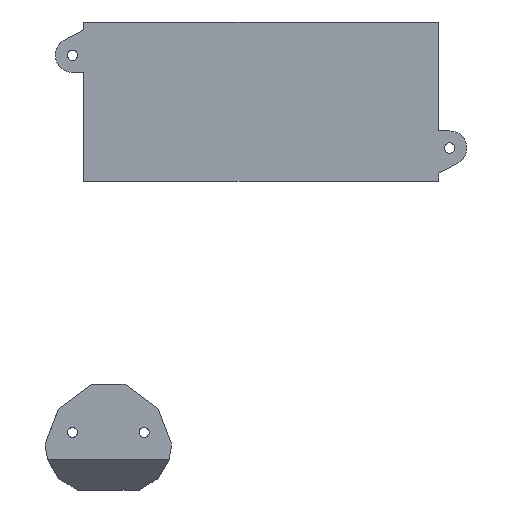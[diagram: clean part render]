
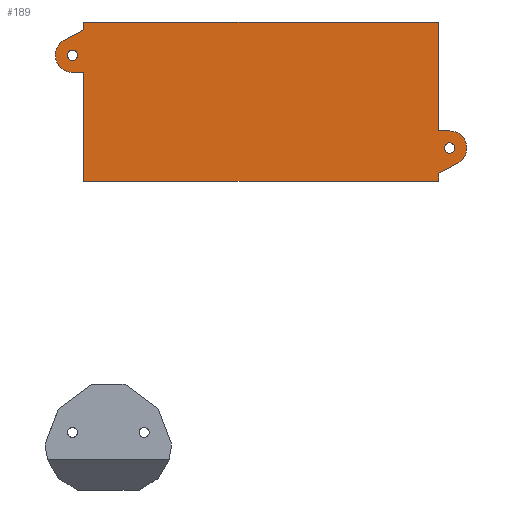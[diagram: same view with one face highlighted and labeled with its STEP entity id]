
A CAD part, top view. The second image highlights one B-rep face of the part: STEP entity #189.
In plain terms, the highlighted planar face has unit normal (0, 0, 1).
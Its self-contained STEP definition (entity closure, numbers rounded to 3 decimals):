
#189 = ADVANCED_FACE( '', ( #361, #362, #363 ), #364, .T. );
#361 = FACE_OUTER_BOUND( '', #516, .T. );
#362 = FACE_BOUND( '', #517, .T. );
#363 = FACE_BOUND( '', #518, .T. );
#364 = PLANE( '', #519 );
#516 = EDGE_LOOP( '', ( #887, #888, #889, #890, #891, #892, #893, #894, #895, #896, #897, #898 ) );
#517 = EDGE_LOOP( '', ( #899 ) );
#518 = EDGE_LOOP( '', ( #900 ) );
#519 = AXIS2_PLACEMENT_3D( '', #901, #902, #903 );
#887 = ORIENTED_EDGE( '', *, *, #1056, .T. );
#888 = ORIENTED_EDGE( '', *, *, #1046, .T. );
#889 = ORIENTED_EDGE( '', *, *, #980, .T. );
#890 = ORIENTED_EDGE( '', *, *, #1064, .T. );
#891 = ORIENTED_EDGE( '', *, *, #1013, .T. );
#892 = ORIENTED_EDGE( '', *, *, #1049, .T. );
#893 = ORIENTED_EDGE( '', *, *, #1008, .T. );
#894 = ORIENTED_EDGE( '', *, *, #1069, .T. );
#895 = ORIENTED_EDGE( '', *, *, #1066, .T. );
#896 = ORIENTED_EDGE( '', *, *, #933, .T. );
#897 = ORIENTED_EDGE( '', *, *, #928, .T. );
#898 = ORIENTED_EDGE( '', *, *, #1070, .T. );
#899 = ORIENTED_EDGE( '', *, *, #1060, .F. );
#900 = ORIENTED_EDGE( '', *, *, #1078, .F. );
#901 = CARTESIAN_POINT( '', ( 0., 0., 0. ) );
#902 = DIRECTION( '', ( 0., 0., 1. ) );
#903 = DIRECTION( '', ( 1., 0., 0. ) );
#928 = EDGE_CURVE( '', #1084, #1085, #1086, .T. );
#933 = EDGE_CURVE( '', #1093, #1084, #1094, .T. );
#980 = EDGE_CURVE( '', #1173, #1174, #1175, .T. );
#1008 = EDGE_CURVE( '', #1216, #1217, #1218, .T. );
#1013 = EDGE_CURVE( '', #1225, #1226, #1227, .T. );
#1046 = EDGE_CURVE( '', #1270, #1173, #1271, .T. );
#1049 = EDGE_CURVE( '', #1226, #1216, #1275, .T. );
#1056 = EDGE_CURVE( '', #1284, #1270, #1285, .T. );
#1060 = EDGE_CURVE( '', #1290, #1290, #1291, .T. );
#1064 = EDGE_CURVE( '', #1174, #1225, #1295, .T. );
#1066 = EDGE_CURVE( '', #1297, #1093, #1298, .T. );
#1069 = EDGE_CURVE( '', #1217, #1297, #1301, .T. );
#1070 = EDGE_CURVE( '', #1085, #1284, #1302, .T. );
#1078 = EDGE_CURVE( '', #1311, #1311, #1312, .T. );
#1084 = VERTEX_POINT( '', #1318 );
#1085 = VERTEX_POINT( '', #1319 );
#1086 = LINE( '', #1320, #1321 );
#1093 = VERTEX_POINT( '', #1331 );
#1094 = CIRCLE( '', #1332, 9.11 );
#1173 = VERTEX_POINT( '', #1444 );
#1174 = VERTEX_POINT( '', #1445 );
#1175 = LINE( '', #1446, #1447 );
#1216 = VERTEX_POINT( '', #1507 );
#1217 = VERTEX_POINT( '', #1508 );
#1218 = LINE( '', #1509, #1510 );
#1225 = VERTEX_POINT( '', #1520 );
#1226 = VERTEX_POINT( '', #1521 );
#1227 = LINE( '', #1522, #1523 );
#1270 = VERTEX_POINT( '', #1581 );
#1271 = LINE( '', #1582, #1583 );
#1275 = LINE( '', #1589, #1590 );
#1284 = VERTEX_POINT( '', #1601 );
#1285 = LINE( '', #1602, #1603 );
#1290 = VERTEX_POINT( '', #1610 );
#1291 = CIRCLE( '', #1611, 2.75 );
#1295 = CIRCLE( '', #1616, 9.11 );
#1297 = VERTEX_POINT( '', #1618 );
#1298 = LINE( '', #1619, #1620 );
#1301 = LINE( '', #1624, #1625 );
#1302 = LINE( '', #1626, #1627 );
#1311 = VERTEX_POINT( '', #1638 );
#1312 = CIRCLE( '', #1639, 2.75 );
#1318 = CARTESIAN_POINT( '', ( 200., -40.09, 0. ) );
#1319 = CARTESIAN_POINT( '', ( 194.13, -40.09, 0. ) );
#1320 = CARTESIAN_POINT( '', ( 200., -40.09, 0. ) );
#1321 = VECTOR( '', #1644, 1000. );
#1331 = CARTESIAN_POINT( '', ( 204.308, -57.227, 0. ) );
#1332 = AXIS2_PLACEMENT_3D( '', #1648, #1649, #1650 );
#1444 = CARTESIAN_POINT( '', ( 5.87, 13.49, 0. ) );
#1445 = CARTESIAN_POINT( '', ( -4.308, 8.027, 0. ) );
#1446 = CARTESIAN_POINT( '', ( 5.87, 13.49, 0. ) );
#1447 = VECTOR( '', #1699, 1000. );
#1507 = CARTESIAN_POINT( '', ( 5.87, -66.86, 0. ) );
#1508 = CARTESIAN_POINT( '', ( 194.13, -66.86, 0. ) );
#1509 = CARTESIAN_POINT( '', ( 5.87, -66.86, 0. ) );
#1510 = VECTOR( '', #1722, 1000. );
#1520 = CARTESIAN_POINT( '', ( 0., -9.11, 0. ) );
#1521 = CARTESIAN_POINT( '', ( 5.87, -9.11, 0. ) );
#1522 = CARTESIAN_POINT( '', ( 0., -9.11, 0. ) );
#1523 = VECTOR( '', #1726, 1000. );
#1581 = CARTESIAN_POINT( '', ( 5.87, 17.66, 0. ) );
#1582 = CARTESIAN_POINT( '', ( 5.87, 17.66, 0. ) );
#1583 = VECTOR( '', #1763, 1000. );
#1589 = CARTESIAN_POINT( '', ( 5.87, 17.66, 0. ) );
#1590 = VECTOR( '', #1766, 1000. );
#1601 = CARTESIAN_POINT( '', ( 194.13, 17.66, 0. ) );
#1602 = CARTESIAN_POINT( '', ( 194.13, 17.66, 0. ) );
#1603 = VECTOR( '', #1772, 1000. );
#1610 = CARTESIAN_POINT( '', ( 2.75, 0., 0. ) );
#1611 = AXIS2_PLACEMENT_3D( '', #1775, #1776, #1777 );
#1616 = AXIS2_PLACEMENT_3D( '', #1779, #1780, #1781 );
#1618 = CARTESIAN_POINT( '', ( 194.13, -62.69, 0. ) );
#1619 = CARTESIAN_POINT( '', ( 194.13, -62.69, 0. ) );
#1620 = VECTOR( '', #1782, 1000. );
#1624 = CARTESIAN_POINT( '', ( 194.13, -66.86, 0. ) );
#1625 = VECTOR( '', #1784, 1000. );
#1626 = CARTESIAN_POINT( '', ( 194.13, -66.86, 0. ) );
#1627 = VECTOR( '', #1785, 1000. );
#1638 = CARTESIAN_POINT( '', ( 202.75, -49.2, 0. ) );
#1639 = AXIS2_PLACEMENT_3D( '', #1791, #1792, #1793 );
#1644 = DIRECTION( '', ( -1., 0., 0. ) );
#1648 = CARTESIAN_POINT( '', ( 200., -49.2, 0. ) );
#1649 = DIRECTION( '', ( 0., 0., 1. ) );
#1650 = DIRECTION( '', ( 1., 0., 0. ) );
#1699 = DIRECTION( '', ( -0.881, -0.473, 0. ) );
#1722 = DIRECTION( '', ( 1., 0., 0. ) );
#1726 = DIRECTION( '', ( 1., 0., 0. ) );
#1763 = DIRECTION( '', ( 0., -1., 0. ) );
#1766 = DIRECTION( '', ( 0., -1., 0. ) );
#1772 = DIRECTION( '', ( -1., 0., 0. ) );
#1775 = CARTESIAN_POINT( '', ( 0., 0., 0. ) );
#1776 = DIRECTION( '', ( 0., 0., 1. ) );
#1777 = DIRECTION( '', ( 1., 0., 0. ) );
#1779 = CARTESIAN_POINT( '', ( 0., 0., 0. ) );
#1780 = DIRECTION( '', ( 0., 0., 1. ) );
#1781 = DIRECTION( '', ( 1., 0., 0. ) );
#1782 = DIRECTION( '', ( 0.881, 0.473, 0. ) );
#1784 = DIRECTION( '', ( 0., 1., 0. ) );
#1785 = DIRECTION( '', ( 0., 1., 0. ) );
#1791 = CARTESIAN_POINT( '', ( 200., -49.2, 0. ) );
#1792 = DIRECTION( '', ( 0., 0., 1. ) );
#1793 = DIRECTION( '', ( 1., 0., 0. ) );
